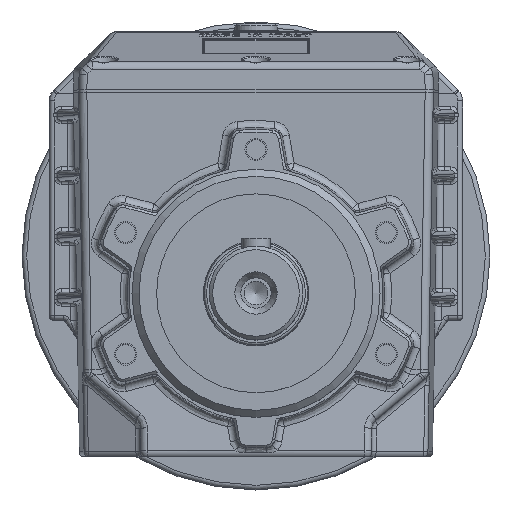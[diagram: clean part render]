
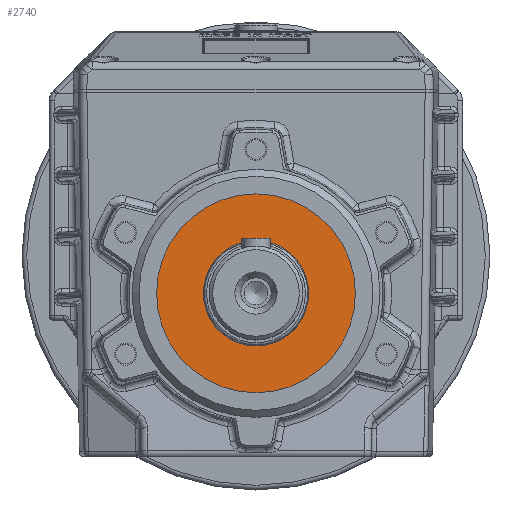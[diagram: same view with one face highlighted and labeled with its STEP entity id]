
A CAD part, top view. The second image highlights one B-rep face of the part: STEP entity #2740.
In plain terms, the highlighted planar face has unit normal (0, 0, 1).
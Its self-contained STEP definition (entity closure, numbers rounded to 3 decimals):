
#2740 = ADVANCED_FACE( '', ( #6051, #6052 ), #6053, .F. );
#6051 = FACE_BOUND( '', #15491, .T. );
#6052 = FACE_OUTER_BOUND( '', #15492, .T. );
#6053 = PLANE( '', #15493 );
#15491 = EDGE_LOOP( '', ( #25018 ) );
#15492 = EDGE_LOOP( '', ( #25019 ) );
#15493 = AXIS2_PLACEMENT_3D( '', #25020, #25021, #25022 );
#25018 = ORIENTED_EDGE( '', *, *, #31401, .T. );
#25019 = ORIENTED_EDGE( '', *, *, #30415, .F. );
#25020 = CARTESIAN_POINT( '', ( 0., 0., 12. ) );
#25021 = DIRECTION( '', ( 0., 0., -1. ) );
#25022 = DIRECTION( '', ( 1., 0., 0. ) );
#30415 = EDGE_CURVE( '', #35445, #35445, #35446, .T. );
#31401 = EDGE_CURVE( '', #36742, #36742, #36743, .T. );
#35445 = VERTEX_POINT( '', #45931 );
#35446 = CIRCLE( '', #45932, 42.5 );
#36742 = VERTEX_POINT( '', #49277 );
#36743 = CIRCLE( '', #49278, 22.5 );
#45931 = CARTESIAN_POINT( '', ( 0., 42.5, 12. ) );
#45932 = AXIS2_PLACEMENT_3D( '', #53310, #53311, #53312 );
#49277 = CARTESIAN_POINT( '', ( 0., 22.5, 12. ) );
#49278 = AXIS2_PLACEMENT_3D( '', #54096, #54097, #54098 );
#53310 = CARTESIAN_POINT( '', ( 0., 0., 12. ) );
#53311 = DIRECTION( '', ( 0., 0., -1. ) );
#53312 = DIRECTION( '', ( 0., 1., 0. ) );
#54096 = CARTESIAN_POINT( '', ( 0., 0., 12. ) );
#54097 = DIRECTION( '', ( 0., 0., -1. ) );
#54098 = DIRECTION( '', ( 0., 1., 0. ) );
